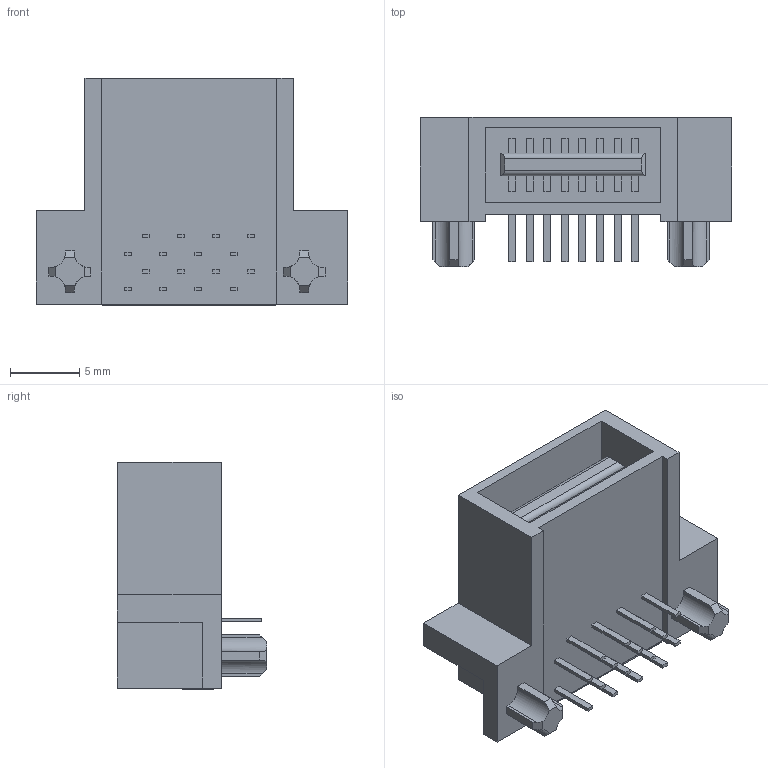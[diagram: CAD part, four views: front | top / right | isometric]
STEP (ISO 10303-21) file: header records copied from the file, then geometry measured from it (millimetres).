
FILE_DESCRIPTION((''),'2;1');
FILE_NAME('459850323','2020-10-29T',('me'),(''),'PRO/ENGINEER BY PARAMETRIC TECHNOLOGY CORPORATION, 2016010','PRO/ENGINEER BY PARAMETRIC TECHNOLOGY CORPORATION, 2016010','');
FILE_SCHEMA(('CONFIG_CONTROL_DESIGN'));
Length unit declared in the file: millimetre
Products named in the file (1): 459850323
Bounding box: 22.5 x 10.75 x 16.42 mm (x, y, z)
Volume: 1084.5 mm3; surface area: 1996.5 mm2
Topology: 1 solids, 1 shells, 476 faces, 1366 edges, 912 vertices
Faces by surface type: plane 434, cylinder 42
Entity records: 15381 total; most frequent: CARTESIAN_POINT 2757, ORIENTED_EDGE 2660, DIRECTION 2420, EDGE_CURVE 1330, VECTOR 1226, LINE 1226, VERTEX_POINT 876, AXIS2_PLACEMENT_3D 597
